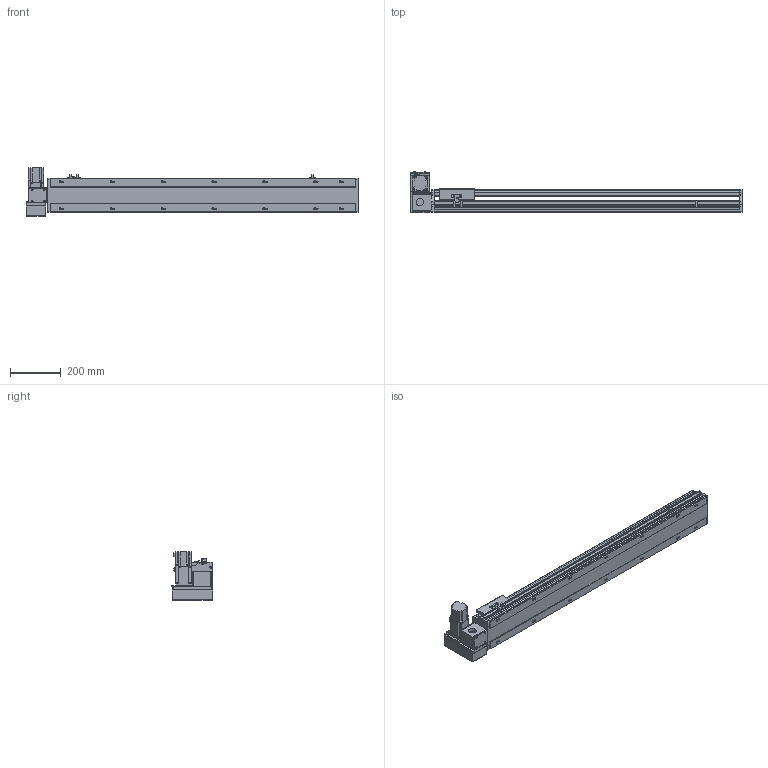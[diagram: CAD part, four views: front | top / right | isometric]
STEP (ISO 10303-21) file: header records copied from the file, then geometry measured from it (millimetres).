
FILE_DESCRIPTION(/* description */ ('STEP AP214'),/* implementation_level */ '2;1');
FILE_NAME(/* name */ 'PBS140S-P40-S950-LU-T40-C1-N(0)',/* time_stamp */ '2022-06-09T02:34:05+02:00',/* author */ ('License CC BY-ND 4.0'),/* organization */ ('CADENAS'),/* preprocessor_version */ 'ST-DEVELOPER v18.102',/* originating_system */ 'PARTsolutions',/* authorisation */ ' ');
FILE_SCHEMA (('AUTOMOTIVE_DESIGN {1 0 10303 214 3 1 1}'));
Length unit declared in the file: millimetre
Products named in the file (7): PBS140S-P40-S950-LU-T40-C1-N(0); PBS140S_sensor; PBS140S_plant; PBS140S_sliser; T40-p1; PBS140ST-LU_motors; PBS140S-S950()_body
Assembly tree (8 placements, depth 2):
  PBS140S-P40-S950-LU-T40-C1-N(0)
    PBS140S_sensor  x3
    PBS140S_plant
    PBS140S_sliser
    T40-p1
    PBS140ST-LU_motors
    PBS140S-S950()_body
Bounding box: 1304 x 162.5 x 189.7 mm (x, y, z)
Volume: 6811223.3 mm3; surface area: 1182064.2 mm2
Topology: 8 solids, 8 shells, 1083 faces, 2871 edges, 1879 vertices
Faces by surface type: plane 696, cylinder 337, cone 40, sphere 8, torus 2
Full cylindrical faces by diameter (mm): 3.242 x4, 4 x2, 4.134 x4, 4.4 x8, 4.5 x2, 4.8 x4, 4.917 x22, 5.5 x7, 6 x2, 7 x16, 7.5 x8, 8 x12, 8.5 x4, 10.5 x14, 14 x1, 30 x2, 50 x2
Entity records: 31038 total; most frequent: CARTESIAN_POINT 5704, DIRECTION 5278, ORIENTED_EDGE 5002, EDGE_CURVE 2501, AXIS2_PLACEMENT_3D 1829, VERTEX_POINT 1729, LINE 1620, VECTOR 1620
